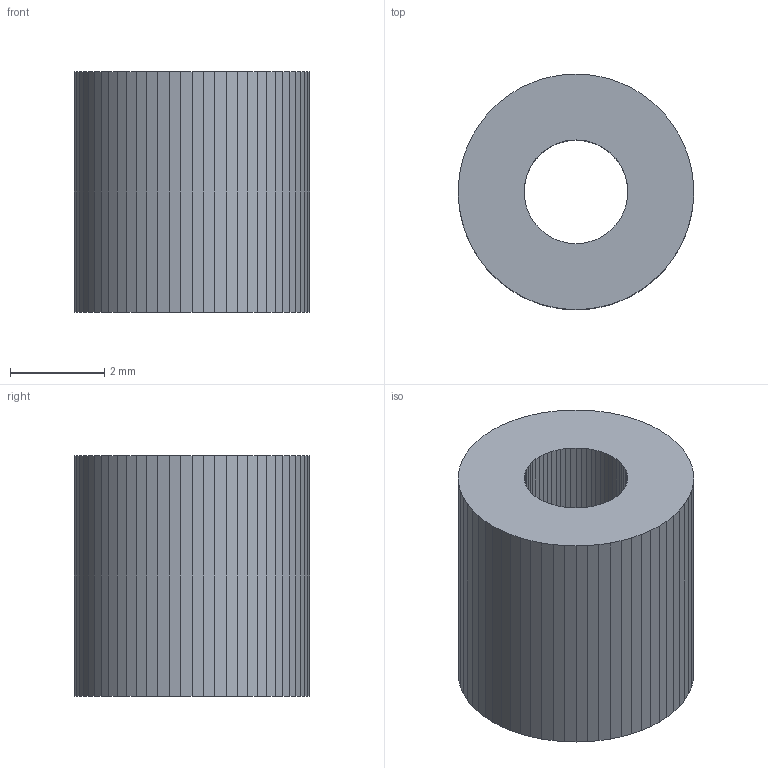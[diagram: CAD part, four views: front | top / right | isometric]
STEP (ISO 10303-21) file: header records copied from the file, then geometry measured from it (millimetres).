
FILE_DESCRIPTION(('Open CASCADE Model'),'2;1');
FILE_NAME('Open CASCADE Shape Model','1979-01-01T00:00:00',('Author'),( 'Open CASCADE'),'Open CASCADE STEP processor 8.0','Open CASCADE 8.0' ,'Unknown');
FILE_SCHEMA(('AUTOMOTIVE_DESIGN { 1 0 10303 214 1 1 1 1 }'));
Length unit declared in the file: millimetre
Products named in the file (1): Open CASCADE STEP translator 8.0 49
Bounding box: 5 x 5 x 5.1 mm (x, y, z)
Volume: 80.6 mm3; surface area: 146.9 mm2
Topology: 1 solids, 1 shells, 130 faces, 384 edges, 256 vertices
Faces by surface type: plane 130
Entity records: 9254 total; most frequent: CARTESIAN_POINT 1539, DIRECTION 1414, LINE 1152, VECTOR 1152, ORIENTED_EDGE 768, PCURVE 768, DEFINITIONAL_REPRESENTATION 768, EDGE_CURVE 384
